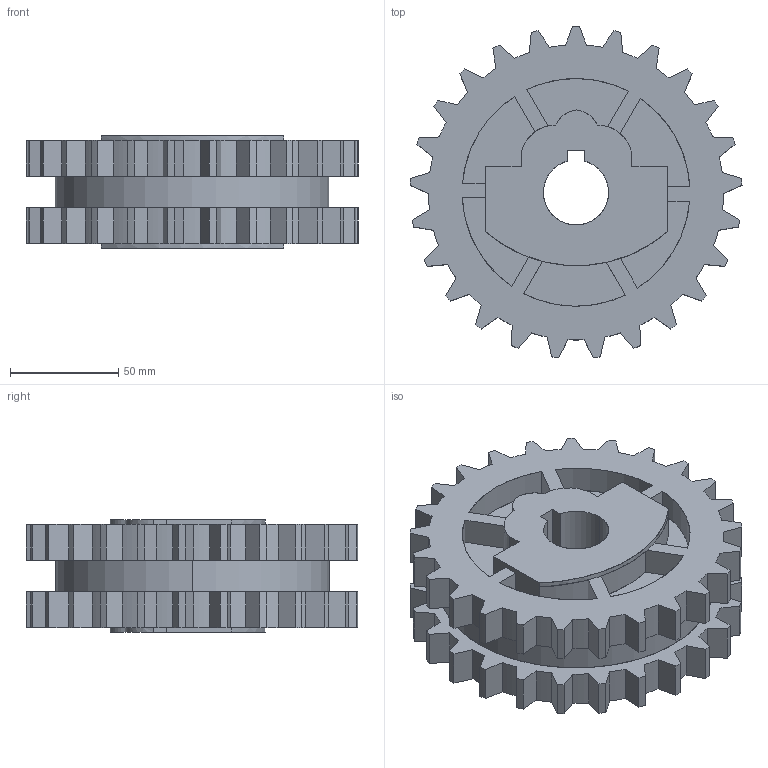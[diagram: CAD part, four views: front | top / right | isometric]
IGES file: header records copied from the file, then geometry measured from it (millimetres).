
Start section: SolidWorks IGES file using analytic representation for surfaces
Global section: file name: C:\Documents and Settings\URETIM3\Desktop\yeni katalog tolgay\326 KI2 225.IGS; native system: SolidWorks 2006 by SolidWorks Corporation; preprocessor: SolidWorks 2006 by SolidWorks Corporation; author: URETIM3; date: 061108.125759; units: millimetre
Bounding box: 153.07 x 152.78 x 52 mm (x, y, z)
Surface area: 91540.9 mm2 (no closed solid volume)
Topology: 0 solids, 0 shells, 297 faces, 2293 edges, 2293 vertices
Faces by surface type: bspline 164, revolution 133
